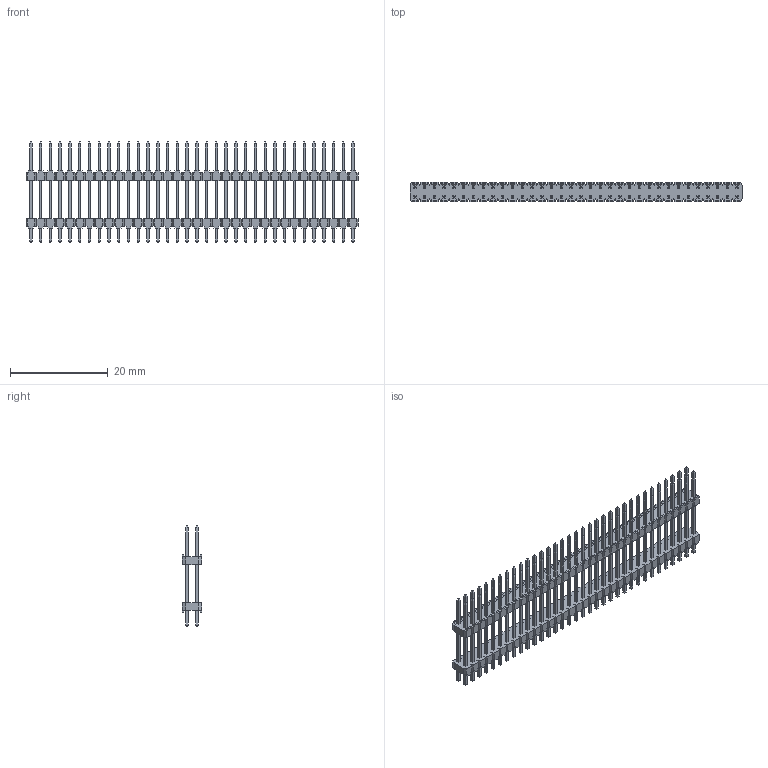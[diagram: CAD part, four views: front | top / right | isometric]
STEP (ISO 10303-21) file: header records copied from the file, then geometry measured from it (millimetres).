
FILE_DESCRIPTION(/* description */ (''),/* implementation_level */ '2;1');
FILE_NAME(/* name */ '951468-8062206-AR',/* time_stamp */ '2007-03-14T11:11:26+01:00',/* author */ (''),/* organization */ (''),/* preprocessor_version */ 'ST-DEVELOPER v9',/* originating_system */ 'UGS - NX 4.0',/* authorisation */ '');
FILE_SCHEMA (('AUTOMOTIVE_DESIGN { 1 0 10303 214 1 1 1 1 }'));
Products named in the file (1): 951468-8062206-AR
Bounding box: 68 x 4 x 20.5 mm (x, y, z)
Volume: 1145.3 mm3; surface area: 4115.3 mm2
Topology: 1 solids, 1 shells, 2456 faces, 6404 edges, 4088 vertices
Faces by surface type: plane 2184, cylinder 272
Entity records: 73500 total; most frequent: CARTESIAN_POINT 12949, ORIENTED_EDGE 12808, DIRECTION 11590, EDGE_CURVE 6404, LINE 6132, VECTOR 6132, VERTEX_POINT 4088, AXIS2_PLACEMENT_3D 2729
